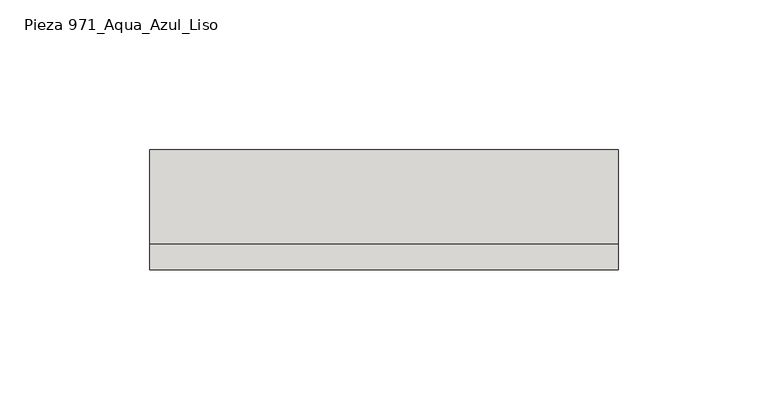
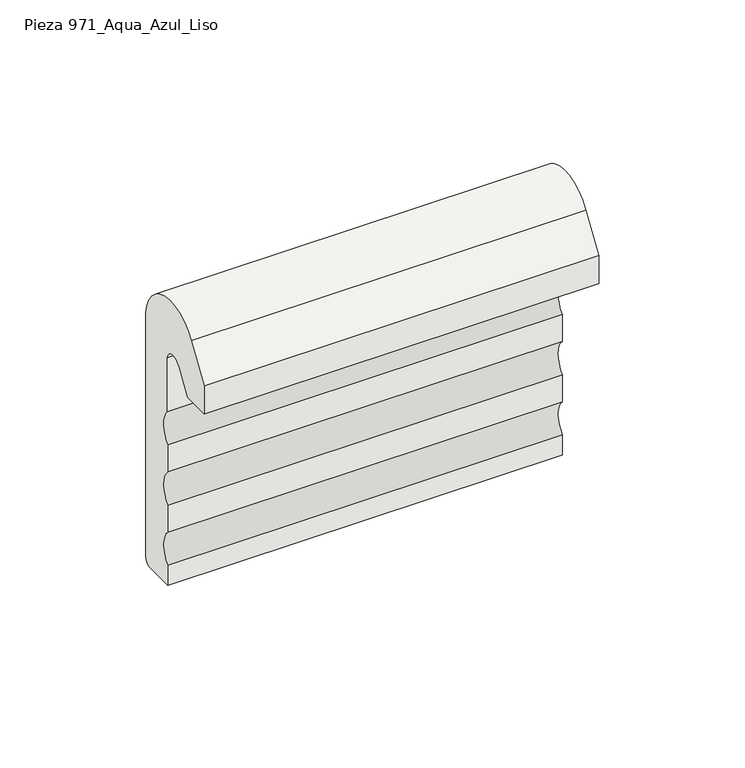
"""IFC4 building model written with IfcOpenShell, lengths in millimetres: slab geometry, ROSA GRES_971 : Pieza 971_Aqua_Azul_Liso."""

from ifc_helpers import new_model, si_unit, point, frame, frame_2d, origin, place, context, project, spatial, polyline, circle_curve, trimmed, segment, composite_curve, outline, extrude, source, transform, mapped, element, save


def pieza_971_aqua_azul_liso_40bda4b8(model_context):
    return source(origin(), model_context, "Body", "SweptSolid", [
        extrude(outline(composite_curve([segment(trimmed(circle_curve(frame_2d((-16.8529233, 144.6319512)), 16.9196478), [point((-31.1851409, 153.6242825))], [point((0.0, 146.1331033))], False, "CARTESIAN"), True, "CONTINUOUS"), segment(polyline([(0.0, 146.1331033), (0.0, 44.0250913)]), True, "CONTINUOUS"), segment(trimmed(circle_curve(frame_2d((-2.68, 44.0250913)), 2.68), [point((0.0, 44.0250913))], [point((-2.68, 41.3450913))], False, "CARTESIAN"), True, "CONTINUOUS"), segment(polyline([(-2.68, 41.3450913), (-15.0062809, 41.3450913), (-15.0062809, 49.6275439)]), True, "CONTINUOUS"), segment(trimmed(circle_curve(frame_2d((-21.3959123, 56.5905141)), 9.450415), [point((-15.0062809, 49.6275439))], [point((-14.9614723, 63.5120982))], True, "CARTESIAN"), True, "CONTINUOUS"), segment(polyline([(-14.9614723, 63.5120982), (-14.9614723, 74.8171516)]), True, "CONTINUOUS"), segment(trimmed(circle_curve(frame_2d((-21.3511036, 81.7801218)), 9.450415), [point((-14.9614723, 74.8171516))], [point((-14.9166636, 88.7017059))], True, "CARTESIAN"), True, "CONTINUOUS"), segment(polyline([(-14.9166636, 88.7017059), (-14.9166636, 100.0067593)]), True, "CONTINUOUS"), segment(trimmed(circle_curve(frame_2d((-21.3613471, 107.0507801)), 9.5473648), [point((-14.9166636, 100.0067593))], [point((-14.3481673, 113.5290116))], True, "CARTESIAN"), True, "CONTINUOUS"), segment(polyline([(-14.3481673, 113.5290116), (-14.3481673, 136.0931579)]), True, "CONTINUOUS"), segment(trimmed(circle_curve(frame_2d((-18.761148, 135.3324983)), 4.4780578), [point((-14.3481673, 136.0931579))], [point((-22.7114874, 137.4414839))], True, "CARTESIAN"), True, "CONTINUOUS"), segment(polyline([(-22.7114874, 137.4414839), (-28.5599154, 128.1510212), (-39.9975962, 128.1510212), (-39.9975962, 139.9882747), (-31.1851409, 153.6242825)]), True, "CONTINUOUS")], self_intersect=False)), frame((0.0, 0.0, 0.0), z_axis=(1.0, 0.0, 0.0), x_axis=(0.0, 1.0, 0.0)), (0.0, 0.0, 1.0), 156.0530419),
    ])


if __name__ == "__main__":
    model = new_model("IFC4")
    model_context = context("Model", 3, world=origin())
    ifc_project = project(units=[si_unit("LENGTHUNIT", "METRE", prefix="MILLI")], contexts=[model_context])
    site = spatial("IfcSite", under=ifc_project)
    building = spatial("IfcBuilding", under=site)
    placement = place(None, origin())
    pieza_971_aqua_azul_liso_shape = pieza_971_aqua_azul_liso_40bda4b8(model_context)
    element("IfcSlab", 1, ObjectType="ROSA GRES_971 : Pieza 971_Aqua_Azul_Liso", at=placement, inside=building, context=model_context, shape_type="MappedRepresentation", body=[
        mapped(pieza_971_aqua_azul_liso_shape, transform((0.0, 0.0, 0.0), x_axis=(1.0, 0.0, 0.0), y_axis=(0.0, 1.0, 0.0), z_axis=(0.0, 0.0, 1.0))),
    ])
    save(model, "model.ifc")
